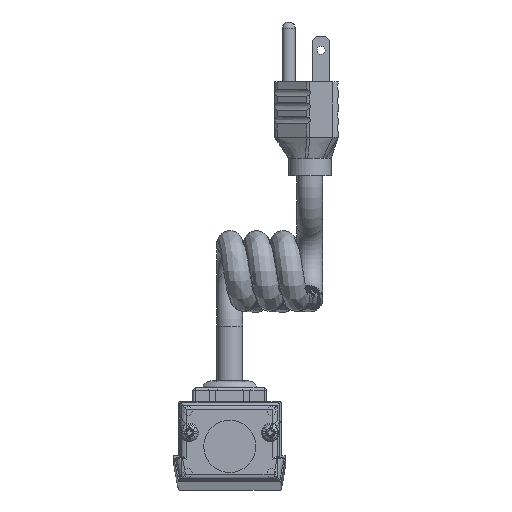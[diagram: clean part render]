
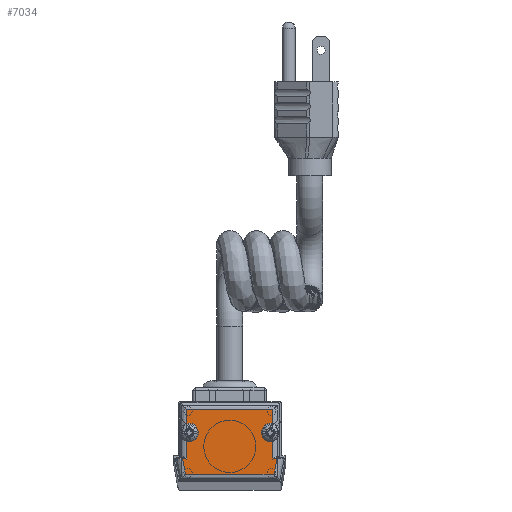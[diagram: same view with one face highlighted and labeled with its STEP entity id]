
A CAD part, top view. The second image highlights one B-rep face of the part: STEP entity #7034.
In plain terms, the highlighted planar face has unit normal (0, 0, 1).
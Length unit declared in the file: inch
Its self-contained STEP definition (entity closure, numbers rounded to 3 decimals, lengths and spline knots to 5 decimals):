
#6860=CARTESIAN_POINT('',(-15.7226,16.40547,2.54));
#6861=VERTEX_POINT('',#6860);
#6862=CARTESIAN_POINT('',(-15.7226,19.05293,2.54));
#6863=VERTEX_POINT('',#6862);
#6881=CARTESIAN_POINT('',(-14.8463,17.7292,2.54));
#6882=DIRECTION('',(0.0,0.0,-1.0));
#6883=DIRECTION('',(1.0,0.0,0.0));
#6884=AXIS2_PLACEMENT_3D('',#6881,#6882,#6883);
#6885=CIRCLE('',#6884,1.5875);
#6886=EDGE_CURVE('',#6863,#6861,#6885,.T.);
#6907=CARTESIAN_POINT('',(15.7226,19.05293,2.54));
#6908=VERTEX_POINT('',#6907);
#6909=CARTESIAN_POINT('',(15.7226,16.40547,2.54));
#6910=VERTEX_POINT('',#6909);
#6928=CARTESIAN_POINT('',(14.8463,17.7292,2.54));
#6929=DIRECTION('',(0.0,0.0,-1.0));
#6930=DIRECTION('',(1.0,0.0,0.0));
#6931=AXIS2_PLACEMENT_3D('',#6928,#6929,#6930);
#6932=CIRCLE('',#6931,1.5875);
#6933=EDGE_CURVE('',#6910,#6908,#6932,.T.);
#6949=CARTESIAN_POINT('',(0.,14.10876,2.54));
#6950=DIRECTION('',(0.0,0.0,1.0));
#6951=DIRECTION('',(1.0,0.0,0.0));
#6952=AXIS2_PLACEMENT_3D('',#6949,#6950,#6951);
#6953=PLANE('',#6952);
#6954=ORIENTED_EDGE('',*,*,#6886,.T.);
#6955=CARTESIAN_POINT('',(-15.7226,8.06566,2.54));
#6956=VERTEX_POINT('',#6955);
#6957=CARTESIAN_POINT('',(-15.7226,8.06566,2.54));
#6958=DIRECTION('',(0.0,1.0,0.0));
#6959=VECTOR('',#6958,8.33981);
#6960=LINE('',#6957,#6959);
#6961=EDGE_CURVE('',#6956,#6861,#6960,.T.);
#6962=ORIENTED_EDGE('',*,*,#6961,.F.);
#6963=CARTESIAN_POINT('',(-17.26917,8.20097,2.54));
#6964=VERTEX_POINT('',#6963);
#6965=CARTESIAN_POINT('',(-17.26917,8.20097,2.54));
#6966=DIRECTION('',(0.996,-0.087,0.0));
#6967=VECTOR('',#6966,1.55247);
#6968=LINE('',#6965,#6967);
#6969=EDGE_CURVE('',#6964,#6956,#6968,.T.);
#6970=ORIENTED_EDGE('',*,*,#6969,.F.);
#6971=CARTESIAN_POINT('',(-16.16879,2.54,2.54));
#6972=VERTEX_POINT('',#6971);
#6973=CARTESIAN_POINT('',(-16.16879,2.54,2.54));
#6974=DIRECTION('',(-0.191,0.982,0.0));
#6975=VECTOR('',#6974,5.76692);
#6976=LINE('',#6973,#6975);
#6977=EDGE_CURVE('',#6972,#6964,#6976,.T.);
#6978=ORIENTED_EDGE('',*,*,#6977,.F.);
#6979=CARTESIAN_POINT('',(16.16879,2.54,2.54));
#6980=VERTEX_POINT('',#6979);
#6981=CARTESIAN_POINT('',(16.16879,2.54,2.54));
#6982=DIRECTION('',(-1.0,0.0,0.0));
#6983=VECTOR('',#6982,32.33757);
#6984=LINE('',#6981,#6983);
#6985=EDGE_CURVE('',#6980,#6972,#6984,.T.);
#6986=ORIENTED_EDGE('',*,*,#6985,.F.);
#6987=CARTESIAN_POINT('',(17.26917,8.20097,2.54));
#6988=VERTEX_POINT('',#6987);
#6989=CARTESIAN_POINT('',(17.26917,8.20097,2.54));
#6990=DIRECTION('',(-0.191,-0.982,0.0));
#6991=VECTOR('',#6990,5.76692);
#6992=LINE('',#6989,#6991);
#6993=EDGE_CURVE('',#6988,#6980,#6992,.T.);
#6994=ORIENTED_EDGE('',*,*,#6993,.F.);
#6995=CARTESIAN_POINT('',(15.7226,8.06566,2.54));
#6996=VERTEX_POINT('',#6995);
#6997=CARTESIAN_POINT('',(15.7226,8.06566,2.54));
#6998=DIRECTION('',(0.996,0.087,0.0));
#6999=VECTOR('',#6998,1.55247);
#7000=LINE('',#6997,#6999);
#7001=EDGE_CURVE('',#6996,#6988,#7000,.T.);
#7002=ORIENTED_EDGE('',*,*,#7001,.F.);
#7003=CARTESIAN_POINT('',(15.7226,16.40547,2.54));
#7004=DIRECTION('',(0.0,-1.0,0.0));
#7005=VECTOR('',#7004,8.33981);
#7006=LINE('',#7003,#7005);
#7007=EDGE_CURVE('',#6910,#6996,#7006,.T.);
#7008=ORIENTED_EDGE('',*,*,#7007,.F.);
#7009=ORIENTED_EDGE('',*,*,#6933,.T.);
#7010=CARTESIAN_POINT('',(15.7226,26.035,2.54));
#7011=VERTEX_POINT('',#7010);
#7012=CARTESIAN_POINT('',(15.7226,26.035,2.54));
#7013=DIRECTION('',(0.0,-1.0,0.0));
#7014=VECTOR('',#7013,6.98207);
#7015=LINE('',#7012,#7014);
#7016=EDGE_CURVE('',#7011,#6908,#7015,.T.);
#7017=ORIENTED_EDGE('',*,*,#7016,.F.);
#7018=CARTESIAN_POINT('',(-15.7226,26.035,2.54));
#7019=VERTEX_POINT('',#7018);
#7020=CARTESIAN_POINT('',(-15.7226,26.035,2.54));
#7021=DIRECTION('',(1.0,0.0,0.0));
#7022=VECTOR('',#7021,31.4452);
#7023=LINE('',#7020,#7022);
#7024=EDGE_CURVE('',#7019,#7011,#7023,.T.);
#7025=ORIENTED_EDGE('',*,*,#7024,.F.);
#7026=CARTESIAN_POINT('',(-15.7226,19.05293,2.54));
#7027=DIRECTION('',(0.0,1.0,0.0));
#7028=VECTOR('',#7027,6.98207);
#7029=LINE('',#7026,#7028);
#7030=EDGE_CURVE('',#6863,#7019,#7029,.T.);
#7031=ORIENTED_EDGE('',*,*,#7030,.F.);
#7032=EDGE_LOOP('',(#6954,#6962,#6970,#6978,#6986,#6994,#7002,#7008,#7009,#7017,#7025,#7031));
#7033=FACE_OUTER_BOUND('',#7032,.T.);
#7034=ADVANCED_FACE('',(#7033),#6953,.T.);
